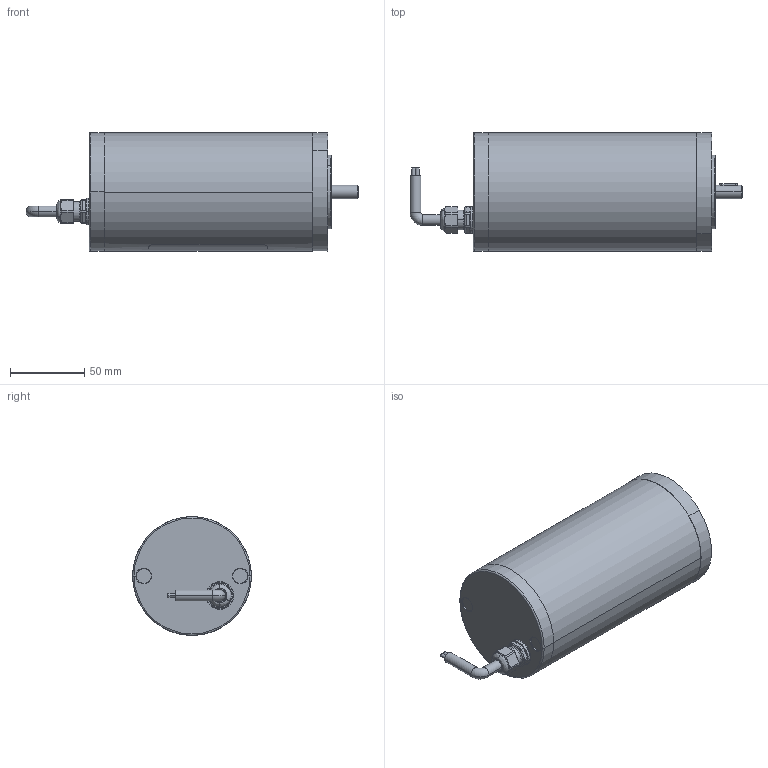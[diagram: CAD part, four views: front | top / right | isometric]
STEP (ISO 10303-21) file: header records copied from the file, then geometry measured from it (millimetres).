
FILE_DESCRIPTION (( 'STEP AP214' ), '1' );
FILE_NAME ('EC100.240_IP65.STEP', '2018-09-03T11:47:15', ( '' ), ( '' ), 'SwSTEP 2.0', 'SolidWorks 2018', '' );
FILE_SCHEMA (( 'AUTOMOTIVE_DESIGN' ));
Length unit declared in the file: millimetre
Products named in the file (13): cavo; Silicone; PRESSACAVO M16; BREP13; BackShield_EC100_IP65; LINGUETTA CHA UNI 6604 DIN6885_CHA03x3x12; Body_EC100_IP65; Albero_EC100_IP65; BREP12; Shield_EC100_IP65; EC100.240_IP65; BREP11; PARAOLI DOPPIO LABBRO_P12x20x5TC-N
Assembly tree (13 placements, depth 3):
  EC100.240_IP65
    Body_EC100_IP65
    Shield_EC100_IP65
    PARAOLI DOPPIO LABBRO_P12x20x5TC-N
    Albero_EC100_IP65
    LINGUETTA CHA UNI 6604 DIN6885_CHA03x3x12
    BackShield_EC100_IP65
    PRESSACAVO M16
      BREP11
      BREP12
      BREP13
    Silicone  x2
    cavo
Bounding box: 223.65 x 80 x 80 mm (x, y, z)
Volume: 812115.9 mm3; surface area: 80559.2 mm2
Topology: 12 solids, 12 shells, 287 faces, 626 edges, 379 vertices
Faces by surface type: cylinder 128, plane 90, torus 43, cone 18, bspline 8
Entity records: 12591 total; most frequent: CARTESIAN_POINT 4071, DIRECTION 1343, ORIENTED_EDGE 1236, EDGE_CURVE 618, AXIS2_PLACEMENT_3D 545, VERTEX_POINT 375, EDGE_LOOP 317, ADVANCED_FACE 283
